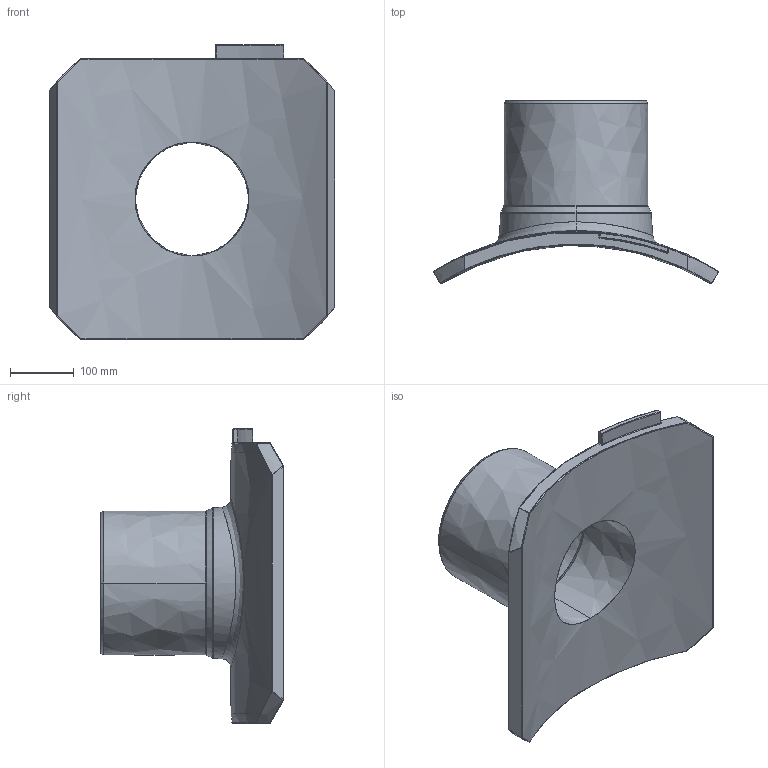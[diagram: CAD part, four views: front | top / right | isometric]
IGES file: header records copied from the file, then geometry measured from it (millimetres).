
Start section:  PTC IGES file: sa-uni_d800_225_01.igs
Global section: file name: sa-uni_d800_225_01.igs; native system: Creo Parametric by PTC Inc.; preprocessor: 2022124; author: mikulicp; organization: Unknown; date: 20240701.113229; units: millimetre
Bounding box: 445.77 x 286.19 x 460 mm (x, y, z)
Surface area: 656627.6 mm2 (no closed solid volume)
Topology: 0 solids, 0 shells, 235 faces, 1138 edges, 1138 vertices
Faces by surface type: bspline 235
